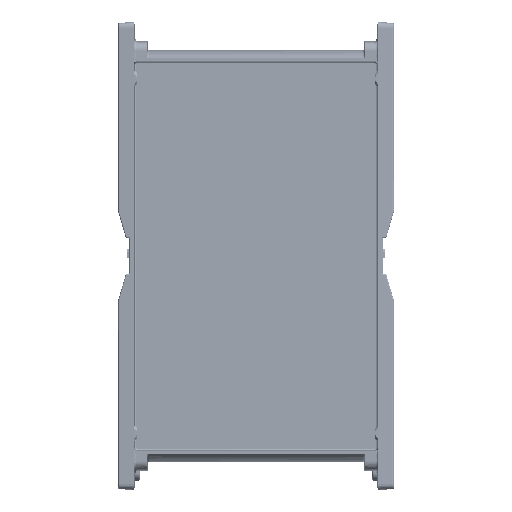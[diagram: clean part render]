
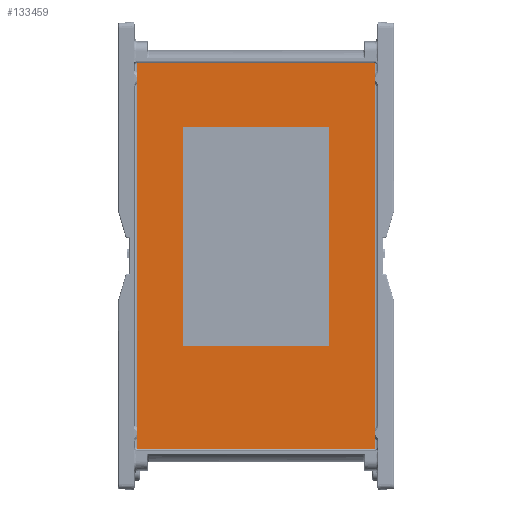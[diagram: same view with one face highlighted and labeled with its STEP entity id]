
A CAD part, top view. The second image highlights one B-rep face of the part: STEP entity #133459.
In plain terms, the highlighted planar face has unit normal (0, 0, 1).
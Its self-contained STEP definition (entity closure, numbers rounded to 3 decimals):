
#133274=DIRECTION('',(-1.,0.,0.));
#133275=VECTOR('',#133274,80.6);
#133276=CARTESIAN_POINT('',(45.3,112.372,301.475));
#133277=LINE('',#133276,#133275);
#133290=DIRECTION('',(0.,1.,0.));
#133291=VECTOR('',#133290,130.254);
#133292=CARTESIAN_POINT('',(-35.3,112.372,301.475));
#133293=LINE('',#133292,#133291);
#133294=DIRECTION('',(0.,-1.,0.));
#133295=VECTOR('',#133294,74.04);
#133296=CARTESIAN_POINT('',(-19.78,221.149,301.475));
#133297=LINE('',#133296,#133295);
#133298=DIRECTION('',(1.,0.,0.));
#133299=VECTOR('',#133298,49.56);
#133300=CARTESIAN_POINT('',(-19.78,147.109,301.475));
#133301=LINE('',#133300,#133299);
#133302=DIRECTION('',(0.,1.,0.));
#133303=VECTOR('',#133302,74.04);
#133304=CARTESIAN_POINT('',(29.78,147.109,301.475));
#133305=LINE('',#133304,#133303);
#133306=DIRECTION('',(-1.,0.,0.));
#133307=VECTOR('',#133306,49.56);
#133308=CARTESIAN_POINT('',(29.78,221.149,301.475));
#133309=LINE('',#133308,#133307);
#133310=DIRECTION('',(1.,0.,0.));
#133311=VECTOR('',#133310,80.6);
#133312=CARTESIAN_POINT('',(-35.3,242.626,301.475));
#133313=LINE('',#133312,#133311);
#133330=DIRECTION('',(0.,1.,0.));
#133331=VECTOR('',#133330,130.254);
#133332=CARTESIAN_POINT('',(45.3,112.372,301.475));
#133333=LINE('',#133332,#133331);
#133366=CARTESIAN_POINT('',(-35.3,112.372,301.475));
#133368=VERTEX_POINT('',#133366);
#133372=CARTESIAN_POINT('',(45.3,112.372,301.475));
#133373=VERTEX_POINT('',#133372);
#133375=CARTESIAN_POINT('',(-35.3,242.626,301.475));
#133377=VERTEX_POINT('',#133375);
#133380=CARTESIAN_POINT('',(45.3,242.626,301.475));
#133381=VERTEX_POINT('',#133380);
#133390=CARTESIAN_POINT('',(-19.78,221.149,301.475));
#133391=CARTESIAN_POINT('',(-19.78,147.109,301.475));
#133392=VERTEX_POINT('',#133390);
#133393=VERTEX_POINT('',#133391);
#133394=CARTESIAN_POINT('',(29.78,147.109,301.475));
#133395=VERTEX_POINT('',#133394);
#133396=CARTESIAN_POINT('',(29.78,221.149,301.475));
#133397=VERTEX_POINT('',#133396);
#133436=CARTESIAN_POINT('',(-35.3,112.372,301.475));
#133437=DIRECTION('',(0.,0.,1.));
#133438=DIRECTION('',(1.,0.,0.));
#133439=AXIS2_PLACEMENT_3D('',#133436,#133437,#133438);
#133440=PLANE('',#133439);
#133441=ORIENTED_EDGE('',*,*,#133426,.T.);
#133442=ORIENTED_EDGE('',*,*,#133409,.T.);
#133444=ORIENTED_EDGE('',*,*,#133443,.T.);
#133446=ORIENTED_EDGE('',*,*,#133445,.F.);
#133447=EDGE_LOOP('',(#133441,#133442,#133444,#133446));
#133448=FACE_OUTER_BOUND('',#133447,.F.);
#133450=ORIENTED_EDGE('',*,*,#133449,.T.);
#133452=ORIENTED_EDGE('',*,*,#133451,.T.);
#133454=ORIENTED_EDGE('',*,*,#133453,.T.);
#133456=ORIENTED_EDGE('',*,*,#133455,.T.);
#133457=EDGE_LOOP('',(#133450,#133452,#133454,#133456));
#133458=FACE_BOUND('',#133457,.F.);
#133409=EDGE_CURVE('',#133368,#133377,#133293,.T.);
#133426=EDGE_CURVE('',#133373,#133368,#133277,.T.);
#133443=EDGE_CURVE('',#133377,#133381,#133313,.T.);
#133445=EDGE_CURVE('',#133373,#133381,#133333,.T.);
#133449=EDGE_CURVE('',#133392,#133393,#133297,.T.);
#133451=EDGE_CURVE('',#133393,#133395,#133301,.T.);
#133453=EDGE_CURVE('',#133395,#133397,#133305,.T.);
#133455=EDGE_CURVE('',#133397,#133392,#133309,.T.);
#133459=ADVANCED_FACE('',(#133448,#133458),#133440,.T.);
